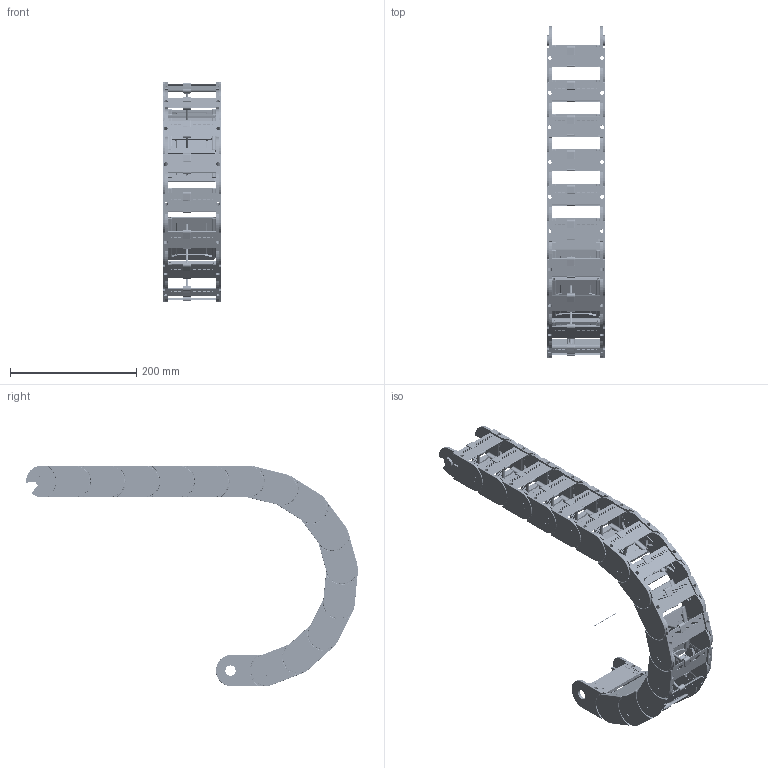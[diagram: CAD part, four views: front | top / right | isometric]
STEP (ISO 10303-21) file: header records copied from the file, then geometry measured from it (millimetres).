
FILE_DESCRIPTION((''),'2;1');
FILE_NAME('C:\Uebbing\PARAMETERKETTEN\KOLIBRI\Kol_50_095_2\KOLIBRI 50_095_2_R150.stp','2012-03-05T09:47:07',('Uebbing'),(''),'Autodesk Inventor 10','Autodesk Inventor 10','');
FILE_SCHEMA(('AUTOMOTIVE_DESIGN { 1 0 10303 214 1 1 1 1 }'));
Length unit declared in the file: millimetre
Products named in the file (6): KOLIBRI 50_095_2_PARAMETRISCH; Achse; Kol_50_095_2; Kol_50_095_2_Lasche; Kol_50_95_0_Klappsteg; Kol_50_095_2 PZ 
Assembly tree (19 placements, depth 3):
  KOLIBRI 50_095_2_PARAMETRISCH
    Achse
    Kol_50_095_2  x15
      Kol_50_095_2_Lasche
      Kol_50_95_0_Klappsteg
      Kol_50_095_2 PZ 
Bounding box: 92.88 x 526.34 x 350.25 mm (x, y, z)
Volume: 884529.1 mm3; surface area: 597004.8 mm2
Topology: 46 solids, 46 shells, 13008 faces, 34279 edges, 22353 vertices
Faces by surface type: plane 6977, cylinder 2866, bspline 2775, torus 300, sphere 60, cone 30
Full cylindrical faces by diameter (mm): 1 x1, 2.021 x15, 3.549 x15, 4 x15, 4.036 x15, 4.221 x30, 6.231 x15, 16.08 x15, 16.18 x15
Entity records: 31710 total; most frequent: CARTESIAN_POINT 10426, ORIENTED_EDGE 4498, DIRECTION 4149, EDGE_CURVE 2249, VECTOR 1599, LINE 1599, VERTEX_POINT 1478, AXIS2_PLACEMENT_3D 1275
